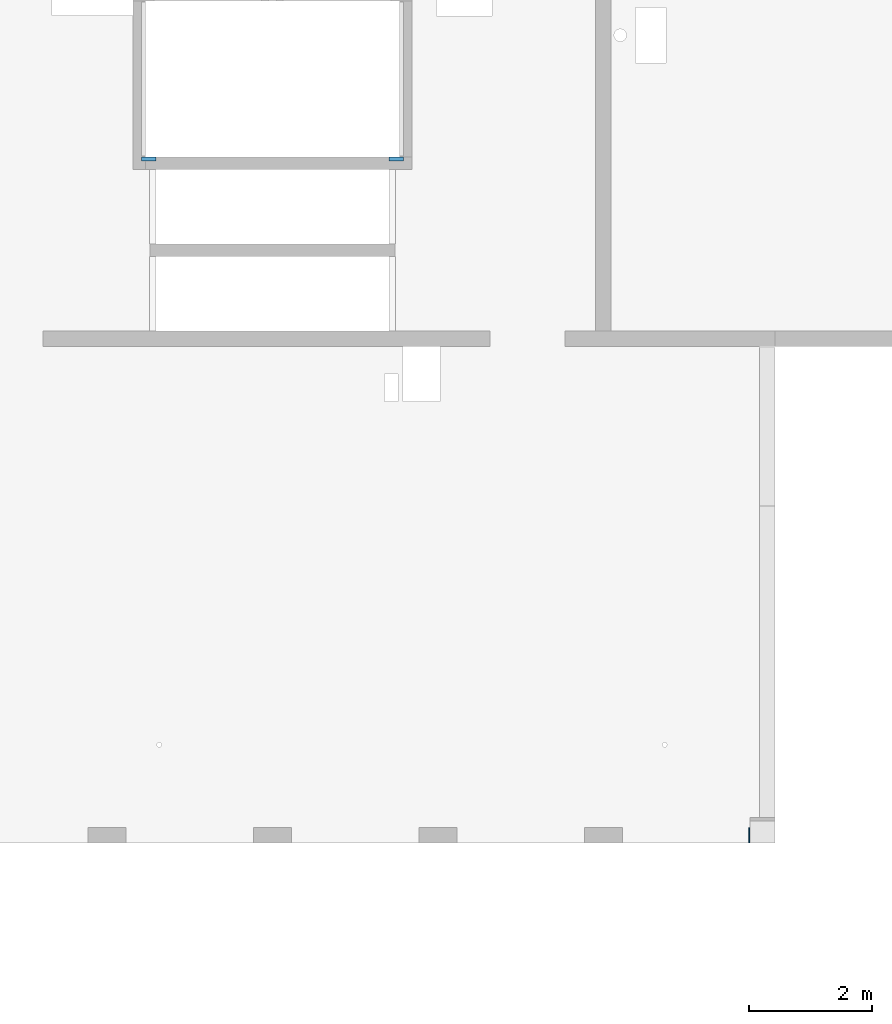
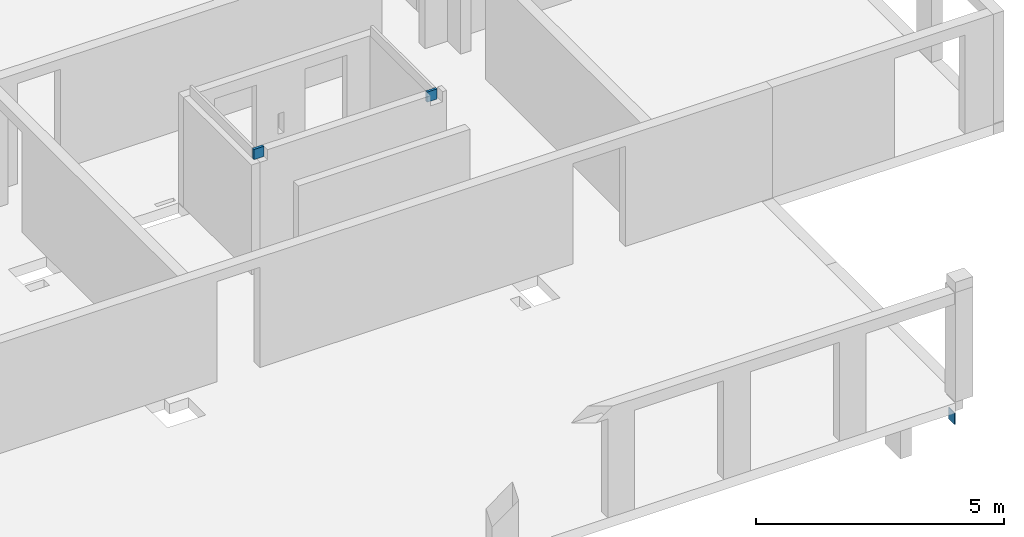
# One storey, part 11 of 12: 3 walls, 1 opening.
"""IFC2X3 building model written with IfcOpenShell, lengths in millimetres."""

from ifc_helpers import new_model, entity, si_unit, converted_unit, derived_unit, direction, frame, frame_2d, origin, place, context, subcontext, project, spatial, rectangle, extrude, material, layer, layer_set, layer_usage, type_object, element, save


model = new_model("IFC2X3")

# Units and contexts
model_context = context("Model", 3, precision=0.01, world=origin(), true_north=direction((6.12303176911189e-17, 1.0)))
body_context = subcontext(model_context, "Body", "Model", "MODEL_VIEW")
ifc_project = project(units=[si_unit("LENGTHUNIT", "METRE", prefix="MILLI"), si_unit("AREAUNIT", "SQUARE_METRE"), si_unit("VOLUMEUNIT", "CUBIC_METRE"), converted_unit("PLANEANGLEUNIT", "DEGREE", entity("IfcRatioMeasure", 0.0174532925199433), si_unit("PLANEANGLEUNIT", "RADIAN"), dimensions=[0, 0, 0, 0, 0, 0, 0]), si_unit("MASSUNIT", "GRAM", prefix="KILO"), derived_unit("MASSDENSITYUNIT", [(si_unit("MASSUNIT", "GRAM", prefix="KILO"), 1), (si_unit("LENGTHUNIT", "METRE"), -3)]), si_unit("TIMEUNIT", "SECOND"), si_unit("FREQUENCYUNIT", "HERTZ"), si_unit("THERMODYNAMICTEMPERATUREUNIT", "DEGREE_CELSIUS"), derived_unit("THERMALTRANSMITTANCEUNIT", [(si_unit("MASSUNIT", "GRAM", prefix="KILO"), 1), (si_unit("THERMODYNAMICTEMPERATUREUNIT", "KELVIN"), -1), (si_unit("TIMEUNIT", "SECOND"), -3)]), derived_unit("VOLUMETRICFLOWRATEUNIT", [(si_unit("LENGTHUNIT", "METRE"), 3), (si_unit("TIMEUNIT", "SECOND"), -1)]), si_unit("ELECTRICCURRENTUNIT", "AMPERE"), si_unit("ELECTRICVOLTAGEUNIT", "VOLT"), si_unit("POWERUNIT", "WATT"), si_unit("FORCEUNIT", "NEWTON", prefix="KILO"), si_unit("ILLUMINANCEUNIT", "LUX"), si_unit("LUMINOUSFLUXUNIT", "LUMEN"), si_unit("LUMINOUSINTENSITYUNIT", "CANDELA"), derived_unit("USERDEFINED", [(si_unit("MASSUNIT", "GRAM", prefix="KILO"), -1), (si_unit("LENGTHUNIT", "METRE"), -2), (si_unit("TIMEUNIT", "SECOND"), 3), (si_unit("LUMINOUSFLUXUNIT", "LUMEN"), 1)]), derived_unit("LINEARVELOCITYUNIT", [(si_unit("LENGTHUNIT", "METRE"), 1), (si_unit("TIMEUNIT", "SECOND"), -1)]), si_unit("PRESSUREUNIT", "PASCAL"), derived_unit("USERDEFINED", [(si_unit("LENGTHUNIT", "METRE"), -2), (si_unit("MASSUNIT", "GRAM", prefix="KILO"), 1), (si_unit("TIMEUNIT", "SECOND"), -2)])], contexts=[model_context])

# Site, building, storey
site_placement = place(None, origin())
site = spatial("IfcSite", under=ifc_project, at=site_placement, Name="Default", CompositionType="ELEMENT")
building_placement = place(site_placement, origin())
building = spatial("IfcBuilding", under=site, at=building_placement, Name="niet gebruiken", CompositionType="ELEMENT")
storey_placement = place(building_placement, frame((0.0, 0.0, 18540.0)))
storey = spatial("IfcBuildingStorey", under=building, at=storey_placement, Name="06 zesde verdieping", CompositionType="ELEMENT", Elevation=18540.0)

# Wall, opening
ifc_material_1 = material(Name="NLRS_f2_beton ihwg")
ifc_layer_1 = layer(ifc_material_1, 250.0)
ifc_layer_set_1 = layer_set([ifc_layer_1], Name="Basic Wall:NLRS_21.21_WA_beton ihwg d=250_gen")
ifc_layer_usage_1 = layer_usage(ifc_layer_set_1, "AXIS2", "NEGATIVE", 125.0)
wall_type_1 = type_object("IfcWallType", Name="Basic Wall:NLRS_21.21_WA_beton ihwg d=250_gen", PredefinedType="STANDARD", material=ifc_layer_set_1)
wall_1_placement = place(storey_placement, frame((99570.0, 28881.0, -620.0)))
wall_1 = element("IfcWallStandardCase", 1, at=wall_1_placement, inside=storey, type_object=wall_type_1, material=ifc_layer_usage_1, Name="Basic Wall:NLRS_21.21_WA_beton ihwg d=250_gen", ObjectType="Basic Wall:NLRS_21.21_WA_beton ihwg d=250_gen", context=body_context, shape_type="SweptSolid", body=[
    extrude(rectangle(XDim=19.9999999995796, YDim=250.000000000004, at=frame_2d((9.99999999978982, 1.63424829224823e-13), x_axis=(-1.0, 0.0))), origin(), (0.0, 0.0, 1.0), 280.000000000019),
])
opening_placement = place(wall_1_placement, origin())
element("IfcOpeningElement", 2, at=opening_placement, cuts=wall_1, Name="Basic Wall:NLRS_21.21_WA_beton ihwg d=250_gen", ObjectType="Opening", context=body_context, shape_type="SweptSolid", body=[
    extrude(rectangle(XDim=2440.0, YDim=2080.0, at=frame_2d((-8.64019966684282e-12, -1.13686837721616e-12), x_axis=(0.0, 1.0))), frame((-1020.0, -1399.0, -1220.0), z_axis=(0.0, 1.0, 0.0), x_axis=(-1.0, 0.0, 0.0)), (0.0, 0.0, 1.0), 3048.0),
])

# Walls
ifc_material_2 = material(Name="NLRS_f2_beton prefab")
ifc_layer_2 = layer(ifc_material_2, 60.0)
ifc_layer_set_2 = layer_set([ifc_layer_2], Name="Basic Wall:NLRS_22.21_WA_beton prefab d=60_gen")
ifc_layer_usage_2 = layer_usage(ifc_layer_set_2, "AXIS2", "NEGATIVE", 30.0)
wall_type_2 = type_object("IfcWallType", Name="Basic Wall:NLRS_22.21_WA_beton prefab d=60_gen", PredefinedType="STANDARD", material=ifc_layer_set_2)
wall_2_placement = place(storey_placement, frame((89665.0232139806, 39916.0, 2630.0)))
element("IfcWallStandardCase", 3, at=wall_2_placement, inside=storey, type_object=wall_type_2, material=ifc_layer_usage_2, Name="Basic Wall:NLRS_22.21_WA_beton prefab d=60_gen", ObjectType="Basic Wall:NLRS_22.21_WA_beton prefab d=60_gen", context=body_context, shape_type="SweptSolid", body=[
    extrude(rectangle(XDim=234.976753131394, YDim=60.0000000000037, at=frame_2d((117.488376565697, -4.12292422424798e-12), x_axis=(-1.0, 0.0))), origin(), (0.0, 0.0, 1.0), 250.000000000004),
])
ifc_layer_usage_3 = layer_usage(ifc_layer_set_2, "AXIS2", "POSITIVE", -30.0)
wall_3_placement = place(storey_placement, frame((93934.9767860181, 39916.0, 2630.0), z_axis=(0.0, 0.0, 1.0), x_axis=(-1.0, 0.0, 0.0)))
element("IfcWallStandardCase", 4, at=wall_3_placement, inside=storey, type_object=wall_type_2, material=ifc_layer_usage_3, Name="Basic Wall:NLRS_22.21_WA_beton prefab d=60_gen", ObjectType="Basic Wall:NLRS_22.21_WA_beton prefab d=60_gen", context=body_context, shape_type="SweptSolid", body=[
    extrude(rectangle(XDim=234.976753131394, YDim=60.0000000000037, at=frame_2d((117.488376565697, 4.12114786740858e-12), x_axis=(-1.0, 0.0))), origin(), (0.0, 0.0, 1.0), 250.000000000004),
])

save(model, "model.ifc")
